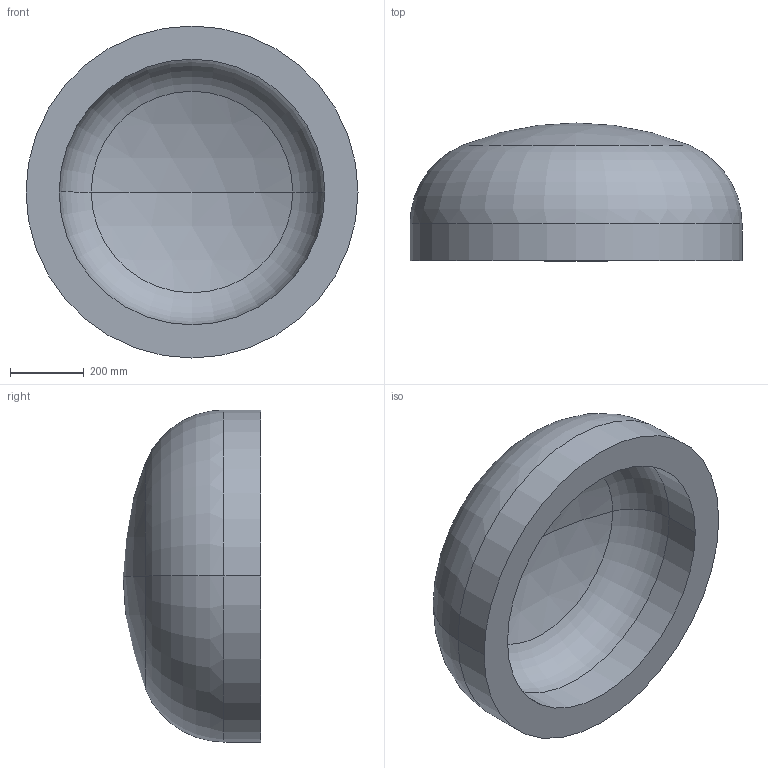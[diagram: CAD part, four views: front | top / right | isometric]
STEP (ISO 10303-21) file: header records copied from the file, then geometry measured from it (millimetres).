
FILE_DESCRIPTION (( 'STEP AP203' ), '1' );
FILE_NAME ('DIN 28013 Korbbogenform_-_Boden DIN 28013 - 900 x 100 - I - s=90.step', '2016-07-01T08:37:28', ( '' ), ( '' ), 'SwSTEP 2.0', 'SolidWorks 2013', '' );
FILE_SCHEMA (( 'CONFIG_CONTROL_DESIGN' ));
Length unit declared in the file: millimetre
Products named in the file (1): DIN 28013 Korbbogenform_-_Boden DIN 28013 - 900 x 100 - I - s=90
Bounding box: 900 x 373.34 x 900 mm (x, y, z)
Volume: 93120680.3 mm3; surface area: 2315334.9 mm2
Topology: 1 solids, 1 shells, 13 faces, 24 edges, 14 vertices
Faces by surface type: torus 4, cylinder 4, sphere 4, plane 1
Entity records: 407 total; most frequent: DIRECTION 72, CARTESIAN_POINT 52, ORIENTED_EDGE 48, AXIS2_PLACEMENT_3D 34, EDGE_CURVE 24, CIRCLE 20, EDGE_LOOP 14, VERTEX_POINT 14
